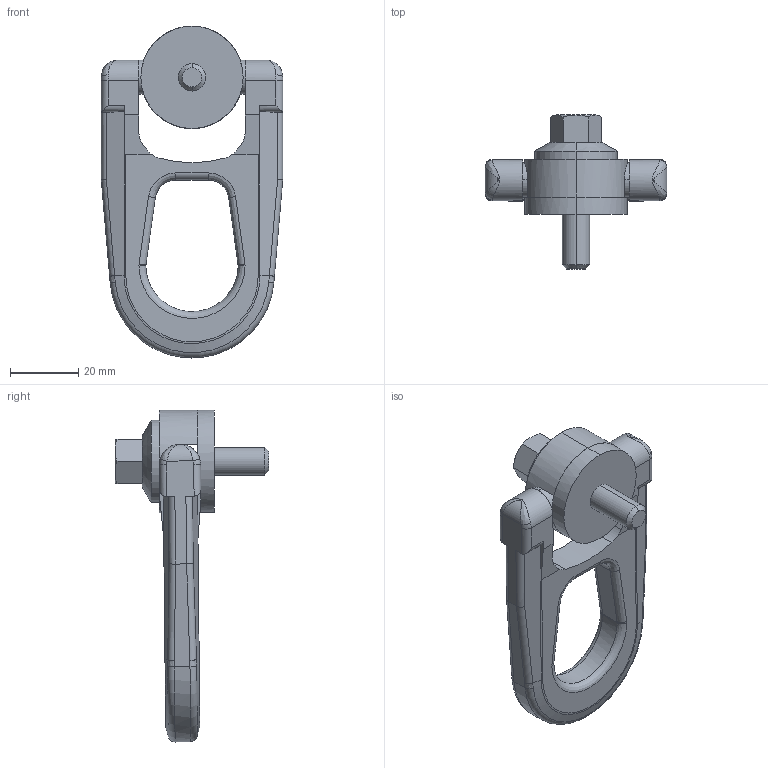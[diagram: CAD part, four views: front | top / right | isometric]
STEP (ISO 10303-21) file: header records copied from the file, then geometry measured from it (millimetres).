
FILE_DESCRIPTION (( 'STEP AP203' ), '1' );
FILE_NAME ('63200.W0009.step', '2013-12-13T15:21:05', ( 'User' ), ( '' ), 'SwSTEP 2.0', 'SolidWorks 2009', '' );
FILE_SCHEMA (( 'CONFIG_CONTROL_DESIGN' ));
Length unit declared in the file: millimetre
Products named in the file (3): Part1_63200.W0009; 63200.W0009; Part2
Assembly tree (2 placements, depth 2):
  63200.W0009
    Part2
    Part1_63200.W0009
Bounding box: 53 x 45 x 97.02 mm (x, y, z)
Volume: 36696.1 mm3; surface area: 13473 mm2
Topology: 2 solids, 2 shells, 143 faces, 355 edges, 217 vertices
Faces by surface type: plane 49, cylinder 46, bspline 28, cone 13, torus 7
Entity records: 6700 total; most frequent: CARTESIAN_POINT 3261, ORIENTED_EDGE 710, DIRECTION 601, EDGE_CURVE 355, AXIS2_PLACEMENT_3D 229, VERTEX_POINT 217, EDGE_LOOP 148, FACE_OUTER_BOUND 143
